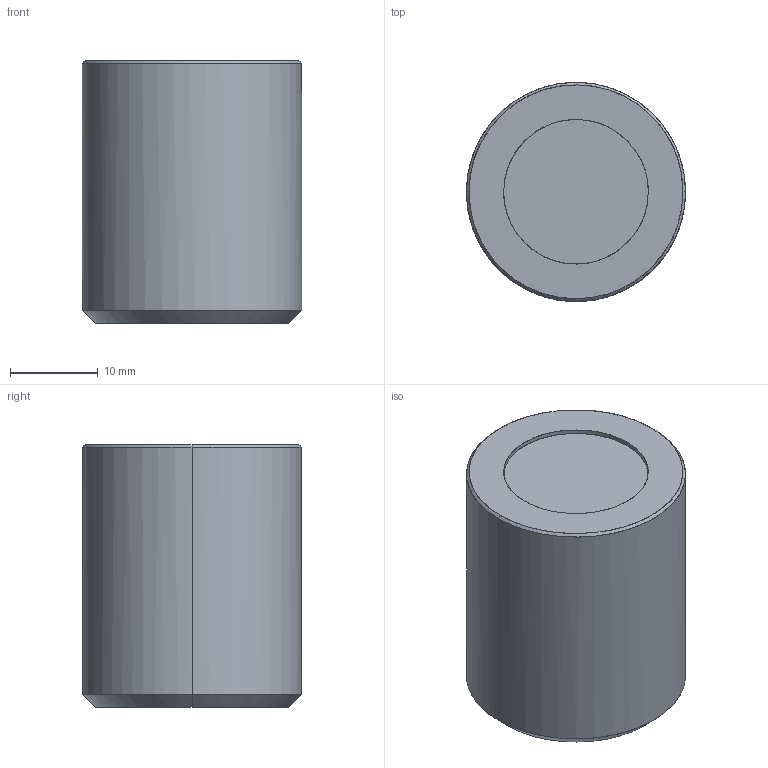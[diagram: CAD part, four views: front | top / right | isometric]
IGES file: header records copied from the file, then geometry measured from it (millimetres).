
Global section: file name: E:\UnigraphicsGraphicData\MISUMI_PRESS-PARTS\IGES\3d_mgn25_00564_r00.igs; native system: NX V5.0; preprocessor: UGS NX IGES V5.0; author: MISUMI; date: 20110105.161420; units: millimetre
Bounding box: 25 x 24.99 x 30 mm (x, y, z)
Surface area: 4567.8 mm2 (no closed solid volume)
Topology: 0 solids, 0 shells, 22 faces, 144 edges, 144 vertices
Faces by surface type: bspline 22
